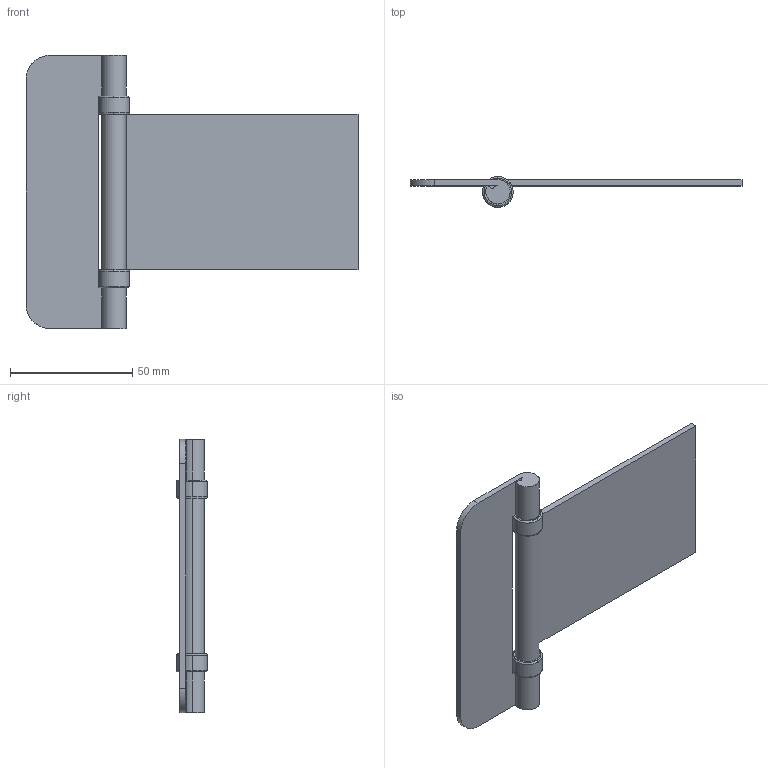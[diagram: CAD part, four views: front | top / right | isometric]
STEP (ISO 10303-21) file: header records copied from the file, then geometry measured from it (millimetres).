
FILE_DESCRIPTION((''),'2;1');
FILE_NAME('6050.stp','2011-05-27T11:21:11',(''),(''),'Mechanical Desktop 2006','Mechanical Desktop 2006',', , ');
FILE_SCHEMA(('CONFIG_CONTROL_DESIGN'));
Length unit declared in the file: millimetre
Products named in the file (1): 6050.01
Bounding box: 136 x 12.5 x 112 mm (x, y, z)
Volume: 18986.2 mm3; surface area: 26770.3 mm2
Topology: 1 solids, 1 shells, 50 faces, 212 edges, 202 vertices
Faces by surface type: bspline 38, cylinder 6, plane 6
Entity records: 2979 total; most frequent: CARTESIAN_POINT 1855, QUASI_UNIFORM_CURVE 250, PCURVE 182, COMPOSITE_CURVE_SEGMENT 182, DIRECTION 68, ORIENTED_EDGE 60, OUTER_BOUNDARY_CURVE 38, CURVE_BOUNDED_SURFACE 38
